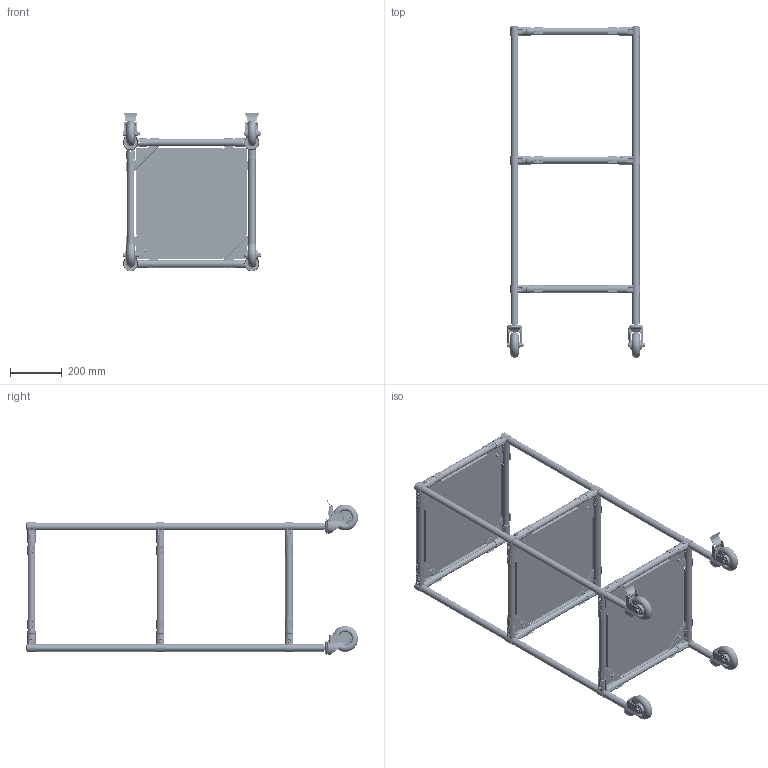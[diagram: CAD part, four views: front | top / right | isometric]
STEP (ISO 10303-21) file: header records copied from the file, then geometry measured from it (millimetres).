
FILE_DESCRIPTION (( 'STEP AP214' ), '1' );
FILE_NAME ('RSI-MST-500x500x1300-3.STEP', '2026-01-30T09:29:09', ( '' ), ( '' ), 'SwSTEP 2.0', 'SolidWorks 2022', '' );
FILE_SCHEMA (( 'AUTOMOTIVE_DESIGN' ));
Length unit declared in the file: millimetre
Products named in the file (18): Polka RSI-MST-500x500x900-2; RSI-MST-500x500x1300-3; D-3; Винт полусфера ISO 7380_М6х16; FHJ-404; F-170; Шайба DIN7980_D8 DIN 7980; fh-1010b; D-2; df-2b_Кронштейн соединительный DF2B; Шайба DIN125_6; Гайка DIN934_M6; Зеркально отразитьfh-1010b; f-110-x.stp; PR-28X3-A_L=400 мм; F-180-1; FHJ-405; PR-28X3-A_L=1150 мм
Assembly tree (105 placements, depth 3):
  RSI-MST-500x500x1300-3
    PR-28X3-A_L=400 мм  x12
    df-2b_Кронштейн соединительный DF2B  x12
      D-2
      D-3
      F-180-1
      F-170
    PR-28X3-A_L=1150 мм  x4
    f-110-x.stp  x4
    FHJ-405  x2
    FHJ-404  x2
    fh-1010b  x6
    Зеркально отразитьfh-1010b  x6
    Polka RSI-MST-500x500x900-2  x3
    Винт полусфера ISO 7380_М6х16  x12
    Шайба DIN125_6  x12
    Шайба DIN7980_D8 DIN 7980  x12
    Гайка DIN934_M6  x12
Bounding box: 535 x 1287.4 x 616 mm (x, y, z)
Volume: 5074944.4 mm3; surface area: 3517233.3 mm2
Topology: 161 solids, 161 shells, 9274 faces, 23664 edges, 15092 vertices
Faces by surface type: cylinder 3774, plane 2572, bspline 1312, cone 752, torus 632, sphere 232
Entity records: 83457 total; most frequent: CARTESIAN_POINT 47274, ORIENTED_EDGE 7108, DIRECTION 6105, EDGE_CURVE 3554, AXIS2_PLACEMENT_3D 2424, VERTEX_POINT 2253, EDGE_LOOP 1533, FACE_OUTER_BOUND 1408
